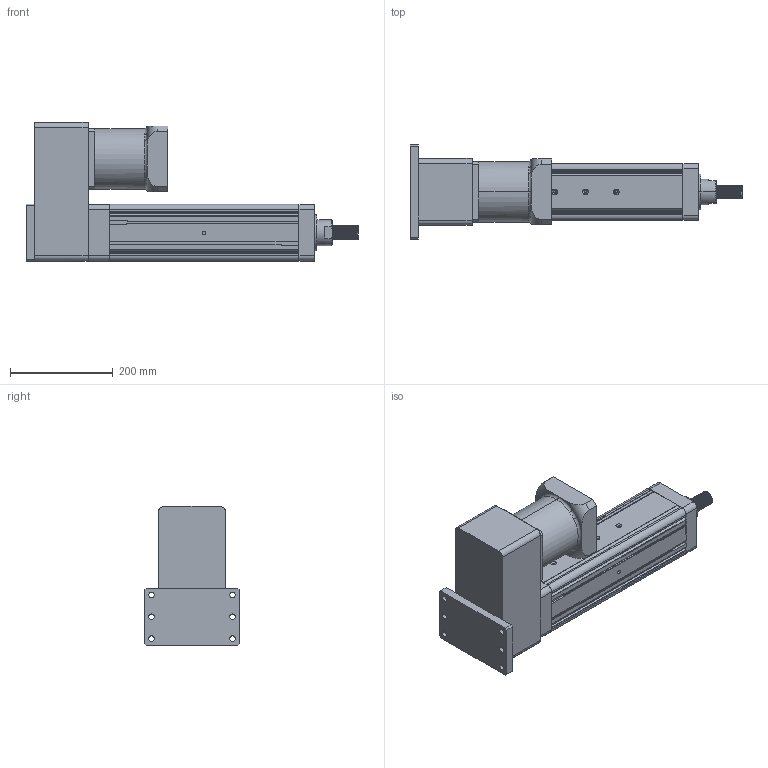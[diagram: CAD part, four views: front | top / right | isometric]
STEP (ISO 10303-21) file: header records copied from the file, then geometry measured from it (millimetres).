
FILE_DESCRIPTION (( 'STEP AP203' ), '1' );
FILE_NAME ('YRJ110-L200-H4K1.STEP', '2020-01-06T02:01:21', ( 'User' ), ( 'China' ), 'SwSTEP 2.0', 'SolidWorks 2016', '' );
FILE_SCHEMA (( 'CONFIG_CONTROL_DESIGN' ));
Length unit declared in the file: millimetre
Products named in the file (8): H4-110; 120遺1500W珨撰熬厒儂; K1-110; YRJ110-L200-H4K1; 095-100俴最倰第; H5-110-1; 萇儂碟-110; H3-110-2
Assembly tree (7 placements, depth 2):
  YRJ110-L200-H4K1
    095-100俴最倰第
    H5-110-1
    萇儂碟-110
    H3-110-2
    H4-110
    120遺1500W珨撰熬厒儂
    K1-110
Bounding box: 647 x 185 x 271 mm (x, y, z)
Volume: 8269427.6 mm3; surface area: 751275.7 mm2
Topology: 7 solids, 7 shells, 373 faces, 1016 edges, 652 vertices
Faces by surface type: cylinder 168, plane 163, cone 29, bspline 8, torus 5
Entity records: 20627 total; most frequent: CARTESIAN_POINT 10508, ORIENTED_EDGE 2000, DIRECTION 1881, EDGE_CURVE 1000, VERTEX_POINT 652, AXIS2_PLACEMENT_3D 649, VECTOR 583, LINE 583
